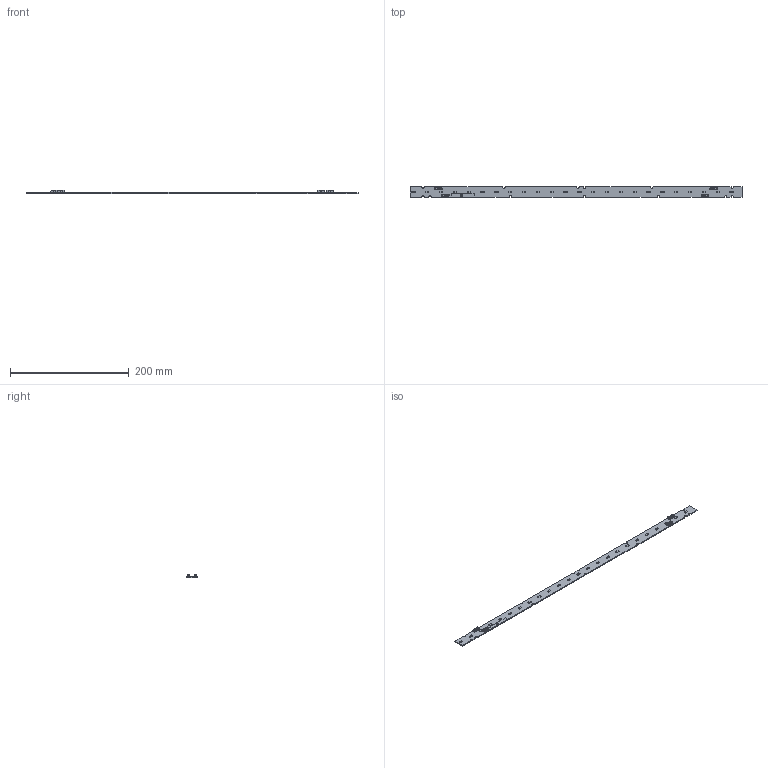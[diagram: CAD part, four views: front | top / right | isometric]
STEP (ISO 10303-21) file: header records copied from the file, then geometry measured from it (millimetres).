
FILE_DESCRIPTION(/* description */ (''),/* implementation_level */ '2;1');
FILE_NAME(/* name */ 'M562A_G2_MODULE.stp',/* time_stamp */ '2016-03-28T18:37:38+09:00',/* author */ (''),/* organization */ (''),/* preprocessor_version */ 'ST-DEVELOPER v15',/* originating_system */ 'SIEMENS PLM Software NX 8.5',/* authorisation */ '');
FILE_SCHEMA (('AP203_CONFIGURATION_CONTROLLED_3D_DESIGN_OF_MECHANICAL_PARTS_AND_ASSEMBLIES_MIM_LF { 1 0 10303 403 2 1 2}'));
Products named in the file (1): jjjj034498ACqt7s
Bounding box: 560 x 18 x 5.75 mm (x, y, z)
Volume: 16327.2 mm3; surface area: 25732.7 mm2
Topology: 34 solids, 34 shells, 1966 faces, 6783 edges, 5397 vertices
Faces by surface type: plane 1706, cylinder 197, bspline 24, torus 20, extrusion 11, sphere 8
Entity records: 95671 total; most frequent: CARTESIAN_POINT 42481, ORIENTED_EDGE 10886, DIRECTION 10162, EDGE_CURVE 5443, VECTOR 5396, LINE 5385, VERTEX_POINT 3578, AXIS2_PLACEMENT_3D 2383
